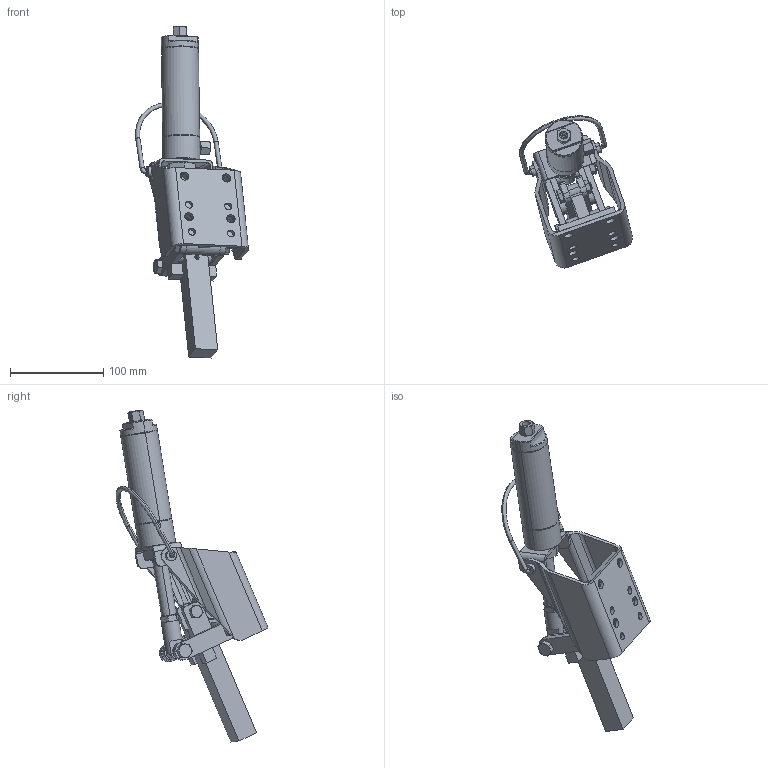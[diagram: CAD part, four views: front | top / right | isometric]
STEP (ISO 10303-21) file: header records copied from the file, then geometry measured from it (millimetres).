
FILE_DESCRIPTION((''),'2;1');
FILE_NAME('C:\1a1-lapeer-mfg\AO-402-WORK\STEP\AOS-402-HD.stp','2006-06-25T12:18:58',('rtaylor'),(''),'Autodesk Inventor 9','Autodesk Inventor 9','');
FILE_SCHEMA(('AUTOMOTIVE_DESIGN { 1 0 10303 214 1 1 1 1 }'));
Length unit declared in the file: inch
Products named in the file (29): AOS-402-HD; 101073; 320064-1; 120064; 171076; 180012; 121108; 190015; AOS-402-HD-CP; 320078; 120078; 121091; 121085; 121030; 310029; 110029; 171021; 150048; 150087; 16-24 UNF - 1; 8-24 UNF - 2; 16 - 24; 8 - 24; 130036; 130038; 101073-rod; 180042-1; 16 - 20; 4 - 16
Assembly tree (35 placements, depth 4):
  AOS-402-HD
    101073
    320064-1
      120064
      171076  x2
    180012  x2
    121108
    190015
    AOS-402-HD-CP
      320078
        120078
        121091
        121085
        121030
      310029
        110029
        171021  x2
        150048
        150087
      16-24 UNF - 1
      8-24 UNF - 2  x2
      16 - 24
      8 - 24  x2
      130036  x2
      130038  x2
    101073-rod
    180042-1
    16 - 20
    4 - 16
Bounding box: 121.15 x 162.83 x 355.86 mm (x, y, z)
Volume: 385533.3 mm3; surface area: 167920 mm2
Topology: 31 solids, 31 shells, 647 faces, 1507 edges, 932 vertices
Faces by surface type: plane 217, cylinder 180, cone 174, bspline 66, torus 10
Entity records: 16184 total; most frequent: CARTESIAN_POINT 3813, DIRECTION 2576, ORIENTED_EDGE 2390, EDGE_CURVE 1195, AXIS2_PLACEMENT_3D 1043, VERTEX_POINT 744, EDGE_LOOP 589, FACE_OUTER_BOUND 508
